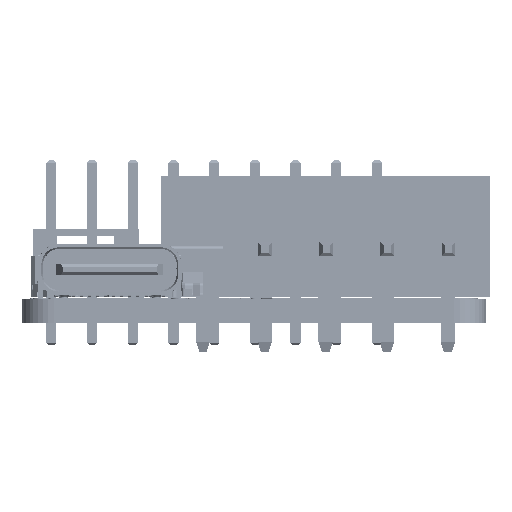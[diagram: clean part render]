
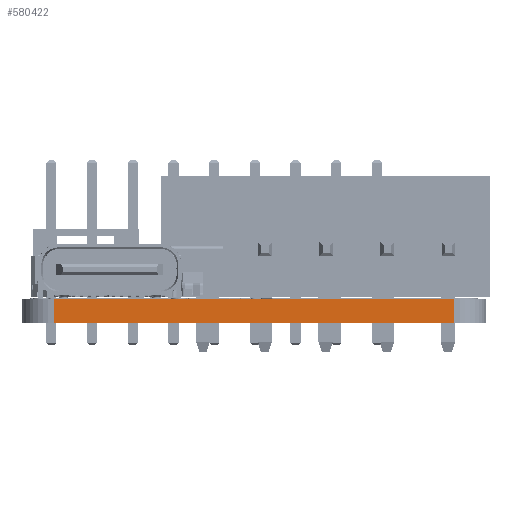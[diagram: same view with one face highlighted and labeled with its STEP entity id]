
A CAD part, front view. The second image highlights one B-rep face of the part: STEP entity #580422.
In plain terms, the highlighted planar face has unit normal (0, -1, 0).
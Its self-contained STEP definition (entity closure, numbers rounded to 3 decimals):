
#579205 = VERTEX_POINT('',#579206);
#579206 = CARTESIAN_POINT('',(119.68,-140.286,0.));
#579213 = EDGE_CURVE('',#579214,#579205,#579216,.T.);
#579214 = VERTEX_POINT('',#579215);
#579215 = CARTESIAN_POINT('',(144.636,-140.286,0.));
#579216 = LINE('',#579217,#579218);
#579217 = CARTESIAN_POINT('',(144.636,-140.286,0.));
#579218 = VECTOR('',#579219,1.);
#579219 = DIRECTION('',(-1.,0.,0.));
#579783 = VERTEX_POINT('',#579784);
#579784 = CARTESIAN_POINT('',(119.68,-140.286,1.51));
#579791 = EDGE_CURVE('',#579792,#579783,#579794,.T.);
#579792 = VERTEX_POINT('',#579793);
#579793 = CARTESIAN_POINT('',(144.636,-140.286,1.51));
#579794 = LINE('',#579795,#579796);
#579795 = CARTESIAN_POINT('',(144.636,-140.286,1.51));
#579796 = VECTOR('',#579797,1.);
#579797 = DIRECTION('',(-1.,0.,0.));
#580394 = EDGE_CURVE('',#579214,#579792,#580395,.T.);
#580395 = LINE('',#580396,#580397);
#580396 = CARTESIAN_POINT('',(144.636,-140.286,0.));
#580397 = VECTOR('',#580398,1.);
#580398 = DIRECTION('',(0.,0.,1.));
#580409 = EDGE_CURVE('',#579205,#579783,#580410,.T.);
#580410 = LINE('',#580411,#580412);
#580411 = CARTESIAN_POINT('',(119.68,-140.286,0.));
#580412 = VECTOR('',#580413,1.);
#580413 = DIRECTION('',(0.,0.,1.));
#580422 = ADVANCED_FACE('',(#580423),#580429,.T.);
#580423 = FACE_BOUND('',#580424,.T.);
#580424 = EDGE_LOOP('',(#580425,#580426,#580427,#580428));
#580425 = ORIENTED_EDGE('',*,*,#580394,.T.);
#580426 = ORIENTED_EDGE('',*,*,#579791,.T.);
#580427 = ORIENTED_EDGE('',*,*,#580409,.F.);
#580428 = ORIENTED_EDGE('',*,*,#579213,.F.);
#580429 = PLANE('',#580430);
#580430 = AXIS2_PLACEMENT_3D('',#580431,#580432,#580433);
#580431 = CARTESIAN_POINT('',(144.636,-140.286,0.));
#580432 = DIRECTION('',(0.,-1.,0.));
#580433 = DIRECTION('',(-1.,0.,0.));
